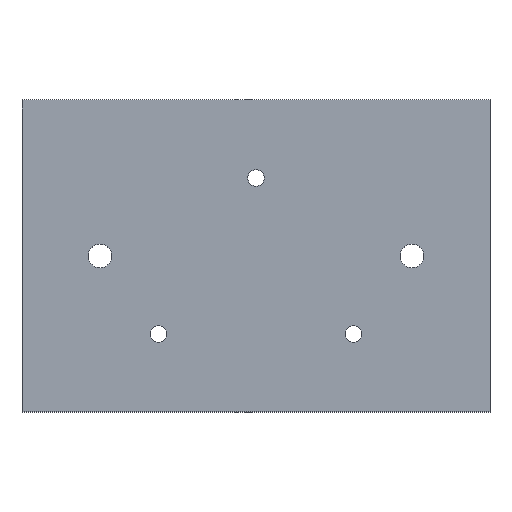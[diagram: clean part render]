
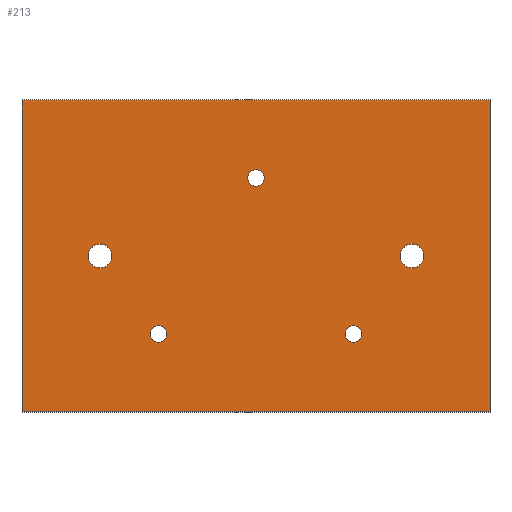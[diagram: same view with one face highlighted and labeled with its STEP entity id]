
A CAD part, top view. The second image highlights one B-rep face of the part: STEP entity #213.
In plain terms, the highlighted planar face has unit normal (0, 0, 1).
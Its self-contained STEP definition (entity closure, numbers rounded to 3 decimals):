
#24 = VERTEX_POINT('',#25);
#25 = CARTESIAN_POINT('',(-60.,-40.,24.));
#32 = PLANE('',#33);
#33 = AXIS2_PLACEMENT_3D('',#34,#35,#36);
#34 = CARTESIAN_POINT('',(-60.,-40.,16.));
#35 = DIRECTION('',(1.,0.,0.));
#36 = DIRECTION('',(0.,0.,1.));
#44 = PLANE('',#45);
#45 = AXIS2_PLACEMENT_3D('',#46,#47,#48);
#46 = CARTESIAN_POINT('',(-60.,-40.,16.));
#47 = DIRECTION('',(0.,1.,0.));
#48 = DIRECTION('',(0.,0.,1.));
#85 = VERTEX_POINT('',#86);
#86 = CARTESIAN_POINT('',(-60.,40.,24.));
#100 = PLANE('',#101);
#101 = AXIS2_PLACEMENT_3D('',#102,#103,#104);
#102 = CARTESIAN_POINT('',(-60.,40.,16.));
#103 = DIRECTION('',(0.,1.,0.));
#104 = DIRECTION('',(0.,0.,1.));
#112 = EDGE_CURVE('',#24,#85,#113,.T.);
#113 = SURFACE_CURVE('',#114,(#118,#125),.PCURVE_S1.);
#114 = LINE('',#115,#116);
#115 = CARTESIAN_POINT('',(-60.,-40.,24.));
#116 = VECTOR('',#117,1.);
#117 = DIRECTION('',(0.,1.,0.));
#118 = PCURVE('',#32,#119);
#119 = DEFINITIONAL_REPRESENTATION('',(#120),#124);
#120 = LINE('',#121,#122);
#121 = CARTESIAN_POINT('',(8.,0.));
#122 = VECTOR('',#123,1.);
#123 = DIRECTION('',(0.,-1.));
#124 = ( GEOMETRIC_REPRESENTATION_CONTEXT(2) 
PARAMETRIC_REPRESENTATION_CONTEXT() REPRESENTATION_CONTEXT('2D SPACE',''
  ) );
#125 = PCURVE('',#126,#131);
#126 = PLANE('',#127);
#127 = AXIS2_PLACEMENT_3D('',#128,#129,#130);
#128 = CARTESIAN_POINT('',(-60.,-40.,24.));
#129 = DIRECTION('',(0.,0.,1.));
#130 = DIRECTION('',(1.,0.,0.));
#131 = DEFINITIONAL_REPRESENTATION('',(#132),#136);
#132 = LINE('',#133,#134);
#133 = CARTESIAN_POINT('',(0.,0.));
#134 = VECTOR('',#135,1.);
#135 = DIRECTION('',(0.,1.));
#136 = ( GEOMETRIC_REPRESENTATION_CONTEXT(2) 
PARAMETRIC_REPRESENTATION_CONTEXT() REPRESENTATION_CONTEXT('2D SPACE',''
  ) );
#165 = EDGE_CURVE('',#24,#166,#168,.T.);
#166 = VERTEX_POINT('',#167);
#167 = CARTESIAN_POINT('',(60.,-40.,24.));
#168 = SURFACE_CURVE('',#169,(#173,#180),.PCURVE_S1.);
#169 = LINE('',#170,#171);
#170 = CARTESIAN_POINT('',(-60.,-40.,24.));
#171 = VECTOR('',#172,1.);
#172 = DIRECTION('',(1.,0.,0.));
#173 = PCURVE('',#44,#174);
#174 = DEFINITIONAL_REPRESENTATION('',(#175),#179);
#175 = LINE('',#176,#177);
#176 = CARTESIAN_POINT('',(8.,0.));
#177 = VECTOR('',#178,1.);
#178 = DIRECTION('',(0.,1.));
#179 = ( GEOMETRIC_REPRESENTATION_CONTEXT(2) 
PARAMETRIC_REPRESENTATION_CONTEXT() REPRESENTATION_CONTEXT('2D SPACE',''
  ) );
#180 = PCURVE('',#126,#181);
#181 = DEFINITIONAL_REPRESENTATION('',(#182),#186);
#182 = LINE('',#183,#184);
#183 = CARTESIAN_POINT('',(0.,0.));
#184 = VECTOR('',#185,1.);
#185 = DIRECTION('',(1.,0.));
#186 = ( GEOMETRIC_REPRESENTATION_CONTEXT(2) 
PARAMETRIC_REPRESENTATION_CONTEXT() REPRESENTATION_CONTEXT('2D SPACE',''
  ) );
#202 = PLANE('',#203);
#203 = AXIS2_PLACEMENT_3D('',#204,#205,#206);
#204 = CARTESIAN_POINT('',(60.,-40.,16.));
#205 = DIRECTION('',(1.,0.,0.));
#206 = DIRECTION('',(0.,0.,1.));
#213 = ADVANCED_FACE('',(#214,#262,#293,#324,#355,#386),#126,.T.);
#214 = FACE_BOUND('',#215,.T.);
#215 = EDGE_LOOP('',(#216,#217,#218,#241));
#216 = ORIENTED_EDGE('',*,*,#112,.F.);
#217 = ORIENTED_EDGE('',*,*,#165,.T.);
#218 = ORIENTED_EDGE('',*,*,#219,.T.);
#219 = EDGE_CURVE('',#166,#220,#222,.T.);
#220 = VERTEX_POINT('',#221);
#221 = CARTESIAN_POINT('',(60.,40.,24.));
#222 = SURFACE_CURVE('',#223,(#227,#234),.PCURVE_S1.);
#223 = LINE('',#224,#225);
#224 = CARTESIAN_POINT('',(60.,-40.,24.));
#225 = VECTOR('',#226,1.);
#226 = DIRECTION('',(0.,1.,0.));
#227 = PCURVE('',#126,#228);
#228 = DEFINITIONAL_REPRESENTATION('',(#229),#233);
#229 = LINE('',#230,#231);
#230 = CARTESIAN_POINT('',(120.,0.));
#231 = VECTOR('',#232,1.);
#232 = DIRECTION('',(0.,1.));
#233 = ( GEOMETRIC_REPRESENTATION_CONTEXT(2) 
PARAMETRIC_REPRESENTATION_CONTEXT() REPRESENTATION_CONTEXT('2D SPACE',''
  ) );
#234 = PCURVE('',#202,#235);
#235 = DEFINITIONAL_REPRESENTATION('',(#236),#240);
#236 = LINE('',#237,#238);
#237 = CARTESIAN_POINT('',(8.,0.));
#238 = VECTOR('',#239,1.);
#239 = DIRECTION('',(0.,-1.));
#240 = ( GEOMETRIC_REPRESENTATION_CONTEXT(2) 
PARAMETRIC_REPRESENTATION_CONTEXT() REPRESENTATION_CONTEXT('2D SPACE',''
  ) );
#241 = ORIENTED_EDGE('',*,*,#242,.F.);
#242 = EDGE_CURVE('',#85,#220,#243,.T.);
#243 = SURFACE_CURVE('',#244,(#248,#255),.PCURVE_S1.);
#244 = LINE('',#245,#246);
#245 = CARTESIAN_POINT('',(-60.,40.,24.));
#246 = VECTOR('',#247,1.);
#247 = DIRECTION('',(1.,0.,0.));
#248 = PCURVE('',#126,#249);
#249 = DEFINITIONAL_REPRESENTATION('',(#250),#254);
#250 = LINE('',#251,#252);
#251 = CARTESIAN_POINT('',(0.,80.));
#252 = VECTOR('',#253,1.);
#253 = DIRECTION('',(1.,0.));
#254 = ( GEOMETRIC_REPRESENTATION_CONTEXT(2) 
PARAMETRIC_REPRESENTATION_CONTEXT() REPRESENTATION_CONTEXT('2D SPACE',''
  ) );
#255 = PCURVE('',#100,#256);
#256 = DEFINITIONAL_REPRESENTATION('',(#257),#261);
#257 = LINE('',#258,#259);
#258 = CARTESIAN_POINT('',(8.,0.));
#259 = VECTOR('',#260,1.);
#260 = DIRECTION('',(0.,1.));
#261 = ( GEOMETRIC_REPRESENTATION_CONTEXT(2) 
PARAMETRIC_REPRESENTATION_CONTEXT() REPRESENTATION_CONTEXT('2D SPACE',''
  ) );
#262 = FACE_BOUND('',#263,.T.);
#263 = EDGE_LOOP('',(#264));
#264 = ORIENTED_EDGE('',*,*,#265,.F.);
#265 = EDGE_CURVE('',#266,#266,#268,.T.);
#266 = VERTEX_POINT('',#267);
#267 = CARTESIAN_POINT('',(-22.9,-20.,24.));
#268 = SURFACE_CURVE('',#269,(#274,#281),.PCURVE_S1.);
#269 = CIRCLE('',#270,2.1);
#270 = AXIS2_PLACEMENT_3D('',#271,#272,#273);
#271 = CARTESIAN_POINT('',(-25.,-20.,24.));
#272 = DIRECTION('',(0.,0.,1.));
#273 = DIRECTION('',(1.,0.,0.));
#274 = PCURVE('',#126,#275);
#275 = DEFINITIONAL_REPRESENTATION('',(#276),#280);
#276 = CIRCLE('',#277,2.1);
#277 = AXIS2_PLACEMENT_2D('',#278,#279);
#278 = CARTESIAN_POINT('',(35.,20.));
#279 = DIRECTION('',(1.,0.));
#280 = ( GEOMETRIC_REPRESENTATION_CONTEXT(2) 
PARAMETRIC_REPRESENTATION_CONTEXT() REPRESENTATION_CONTEXT('2D SPACE',''
  ) );
#281 = PCURVE('',#282,#287);
#282 = CYLINDRICAL_SURFACE('',#283,2.1);
#283 = AXIS2_PLACEMENT_3D('',#284,#285,#286);
#284 = CARTESIAN_POINT('',(-25.,-20.,16.));
#285 = DIRECTION('',(-0.,-0.,-1.));
#286 = DIRECTION('',(1.,0.,0.));
#287 = DEFINITIONAL_REPRESENTATION('',(#288),#292);
#288 = LINE('',#289,#290);
#289 = CARTESIAN_POINT('',(-0.,-8.));
#290 = VECTOR('',#291,1.);
#291 = DIRECTION('',(-1.,0.));
#292 = ( GEOMETRIC_REPRESENTATION_CONTEXT(2) 
PARAMETRIC_REPRESENTATION_CONTEXT() REPRESENTATION_CONTEXT('2D SPACE',''
  ) );
#293 = FACE_BOUND('',#294,.T.);
#294 = EDGE_LOOP('',(#295));
#295 = ORIENTED_EDGE('',*,*,#296,.F.);
#296 = EDGE_CURVE('',#297,#297,#299,.T.);
#297 = VERTEX_POINT('',#298);
#298 = CARTESIAN_POINT('',(27.1,-20.,24.));
#299 = SURFACE_CURVE('',#300,(#305,#312),.PCURVE_S1.);
#300 = CIRCLE('',#301,2.1);
#301 = AXIS2_PLACEMENT_3D('',#302,#303,#304);
#302 = CARTESIAN_POINT('',(25.,-20.,24.));
#303 = DIRECTION('',(0.,0.,1.));
#304 = DIRECTION('',(1.,0.,0.));
#305 = PCURVE('',#126,#306);
#306 = DEFINITIONAL_REPRESENTATION('',(#307),#311);
#307 = CIRCLE('',#308,2.1);
#308 = AXIS2_PLACEMENT_2D('',#309,#310);
#309 = CARTESIAN_POINT('',(85.,20.));
#310 = DIRECTION('',(1.,0.));
#311 = ( GEOMETRIC_REPRESENTATION_CONTEXT(2) 
PARAMETRIC_REPRESENTATION_CONTEXT() REPRESENTATION_CONTEXT('2D SPACE',''
  ) );
#312 = PCURVE('',#313,#318);
#313 = CYLINDRICAL_SURFACE('',#314,2.1);
#314 = AXIS2_PLACEMENT_3D('',#315,#316,#317);
#315 = CARTESIAN_POINT('',(25.,-20.,16.));
#316 = DIRECTION('',(-0.,-0.,-1.));
#317 = DIRECTION('',(1.,0.,0.));
#318 = DEFINITIONAL_REPRESENTATION('',(#319),#323);
#319 = LINE('',#320,#321);
#320 = CARTESIAN_POINT('',(-0.,-8.));
#321 = VECTOR('',#322,1.);
#322 = DIRECTION('',(-1.,0.));
#323 = ( GEOMETRIC_REPRESENTATION_CONTEXT(2) 
PARAMETRIC_REPRESENTATION_CONTEXT() REPRESENTATION_CONTEXT('2D SPACE',''
  ) );
#324 = FACE_BOUND('',#325,.T.);
#325 = EDGE_LOOP('',(#326));
#326 = ORIENTED_EDGE('',*,*,#327,.F.);
#327 = EDGE_CURVE('',#328,#328,#330,.T.);
#328 = VERTEX_POINT('',#329);
#329 = CARTESIAN_POINT('',(-36.985,0.,24.));
#330 = SURFACE_CURVE('',#331,(#336,#343),.PCURVE_S1.);
#331 = CIRCLE('',#332,3.015);
#332 = AXIS2_PLACEMENT_3D('',#333,#334,#335);
#333 = CARTESIAN_POINT('',(-40.,0.,24.));
#334 = DIRECTION('',(0.,0.,1.));
#335 = DIRECTION('',(1.,0.,0.));
#336 = PCURVE('',#126,#337);
#337 = DEFINITIONAL_REPRESENTATION('',(#338),#342);
#338 = CIRCLE('',#339,3.015);
#339 = AXIS2_PLACEMENT_2D('',#340,#341);
#340 = CARTESIAN_POINT('',(20.,40.));
#341 = DIRECTION('',(1.,0.));
#342 = ( GEOMETRIC_REPRESENTATION_CONTEXT(2) 
PARAMETRIC_REPRESENTATION_CONTEXT() REPRESENTATION_CONTEXT('2D SPACE',''
  ) );
#343 = PCURVE('',#344,#349);
#344 = CYLINDRICAL_SURFACE('',#345,3.015);
#345 = AXIS2_PLACEMENT_3D('',#346,#347,#348);
#346 = CARTESIAN_POINT('',(-40.,0.,16.));
#347 = DIRECTION('',(-0.,-0.,-1.));
#348 = DIRECTION('',(1.,0.,0.));
#349 = DEFINITIONAL_REPRESENTATION('',(#350),#354);
#350 = LINE('',#351,#352);
#351 = CARTESIAN_POINT('',(-0.,-8.));
#352 = VECTOR('',#353,1.);
#353 = DIRECTION('',(-1.,0.));
#354 = ( GEOMETRIC_REPRESENTATION_CONTEXT(2) 
PARAMETRIC_REPRESENTATION_CONTEXT() REPRESENTATION_CONTEXT('2D SPACE',''
  ) );
#355 = FACE_BOUND('',#356,.T.);
#356 = EDGE_LOOP('',(#357));
#357 = ORIENTED_EDGE('',*,*,#358,.F.);
#358 = EDGE_CURVE('',#359,#359,#361,.T.);
#359 = VERTEX_POINT('',#360);
#360 = CARTESIAN_POINT('',(43.015,0.,24.));
#361 = SURFACE_CURVE('',#362,(#367,#374),.PCURVE_S1.);
#362 = CIRCLE('',#363,3.015);
#363 = AXIS2_PLACEMENT_3D('',#364,#365,#366);
#364 = CARTESIAN_POINT('',(40.,0.,24.));
#365 = DIRECTION('',(0.,0.,1.));
#366 = DIRECTION('',(1.,0.,0.));
#367 = PCURVE('',#126,#368);
#368 = DEFINITIONAL_REPRESENTATION('',(#369),#373);
#369 = CIRCLE('',#370,3.015);
#370 = AXIS2_PLACEMENT_2D('',#371,#372);
#371 = CARTESIAN_POINT('',(100.,40.));
#372 = DIRECTION('',(1.,0.));
#373 = ( GEOMETRIC_REPRESENTATION_CONTEXT(2) 
PARAMETRIC_REPRESENTATION_CONTEXT() REPRESENTATION_CONTEXT('2D SPACE',''
  ) );
#374 = PCURVE('',#375,#380);
#375 = CYLINDRICAL_SURFACE('',#376,3.015);
#376 = AXIS2_PLACEMENT_3D('',#377,#378,#379);
#377 = CARTESIAN_POINT('',(40.,0.,16.));
#378 = DIRECTION('',(-0.,-0.,-1.));
#379 = DIRECTION('',(1.,0.,0.));
#380 = DEFINITIONAL_REPRESENTATION('',(#381),#385);
#381 = LINE('',#382,#383);
#382 = CARTESIAN_POINT('',(-0.,-8.));
#383 = VECTOR('',#384,1.);
#384 = DIRECTION('',(-1.,0.));
#385 = ( GEOMETRIC_REPRESENTATION_CONTEXT(2) 
PARAMETRIC_REPRESENTATION_CONTEXT() REPRESENTATION_CONTEXT('2D SPACE',''
  ) );
#386 = FACE_BOUND('',#387,.T.);
#387 = EDGE_LOOP('',(#388));
#388 = ORIENTED_EDGE('',*,*,#389,.F.);
#389 = EDGE_CURVE('',#390,#390,#392,.T.);
#390 = VERTEX_POINT('',#391);
#391 = CARTESIAN_POINT('',(2.1,20.,24.));
#392 = SURFACE_CURVE('',#393,(#398,#405),.PCURVE_S1.);
#393 = CIRCLE('',#394,2.1);
#394 = AXIS2_PLACEMENT_3D('',#395,#396,#397);
#395 = CARTESIAN_POINT('',(0.,20.,24.));
#396 = DIRECTION('',(0.,0.,1.));
#397 = DIRECTION('',(1.,0.,0.));
#398 = PCURVE('',#126,#399);
#399 = DEFINITIONAL_REPRESENTATION('',(#400),#404);
#400 = CIRCLE('',#401,2.1);
#401 = AXIS2_PLACEMENT_2D('',#402,#403);
#402 = CARTESIAN_POINT('',(60.,60.));
#403 = DIRECTION('',(1.,0.));
#404 = ( GEOMETRIC_REPRESENTATION_CONTEXT(2) 
PARAMETRIC_REPRESENTATION_CONTEXT() REPRESENTATION_CONTEXT('2D SPACE',''
  ) );
#405 = PCURVE('',#406,#411);
#406 = CYLINDRICAL_SURFACE('',#407,2.1);
#407 = AXIS2_PLACEMENT_3D('',#408,#409,#410);
#408 = CARTESIAN_POINT('',(0.,20.,16.));
#409 = DIRECTION('',(-0.,-0.,-1.));
#410 = DIRECTION('',(1.,0.,0.));
#411 = DEFINITIONAL_REPRESENTATION('',(#412),#416);
#412 = LINE('',#413,#414);
#413 = CARTESIAN_POINT('',(-0.,-8.));
#414 = VECTOR('',#415,1.);
#415 = DIRECTION('',(-1.,0.));
#416 = ( GEOMETRIC_REPRESENTATION_CONTEXT(2) 
PARAMETRIC_REPRESENTATION_CONTEXT() REPRESENTATION_CONTEXT('2D SPACE',''
  ) );
